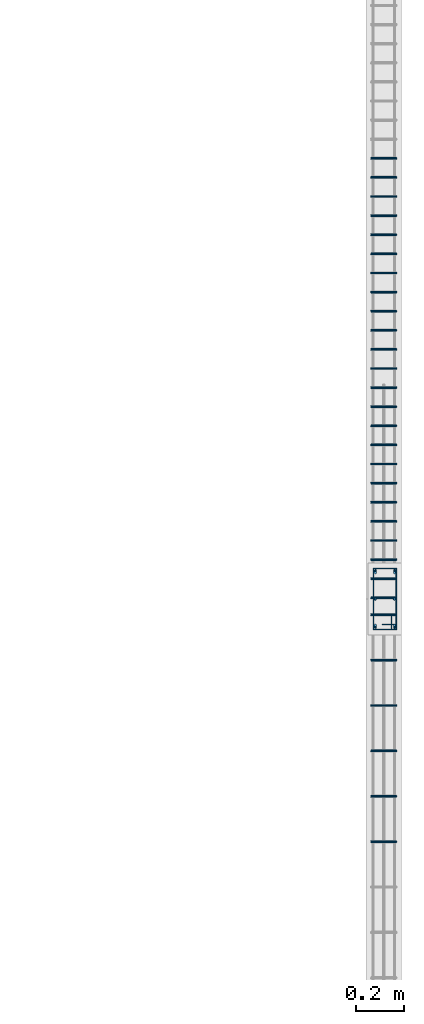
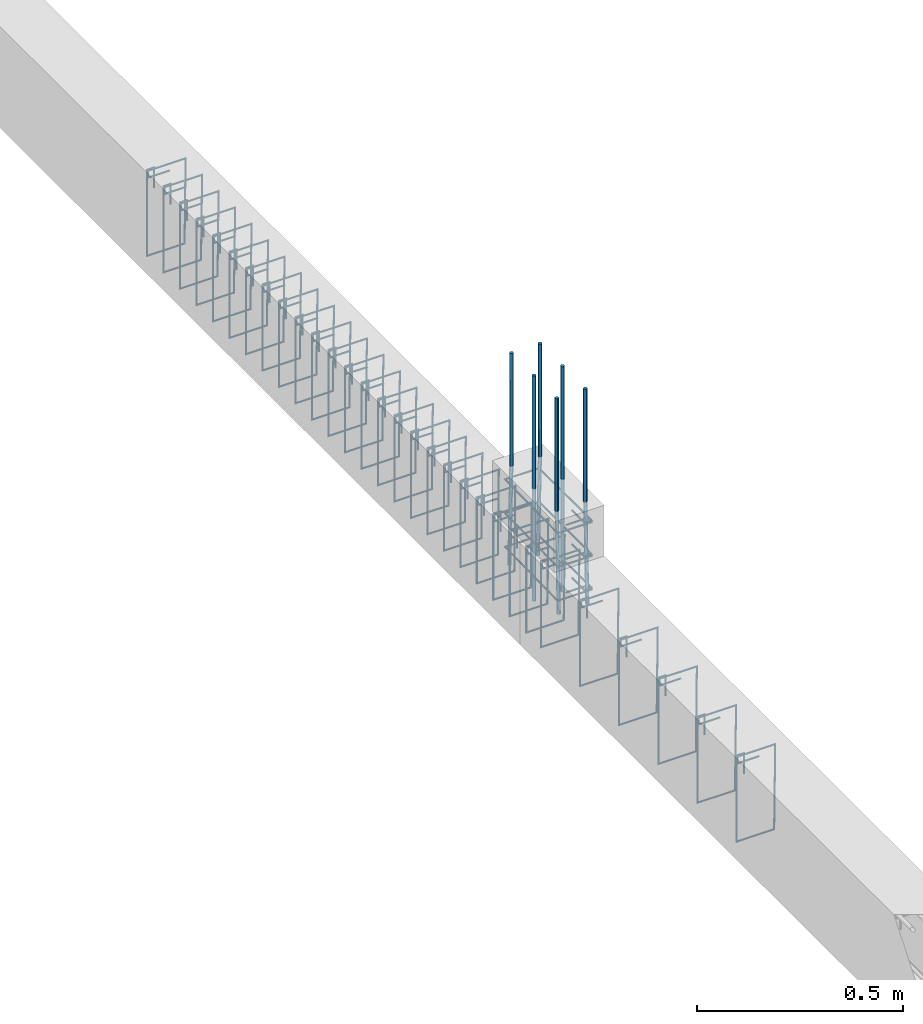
# One storey, part 108 of 150: 39 reinforcing bars.
"""IFC4 building model written with IfcOpenShell, lengths in centimetres."""

from ifc_helpers import new_model, entity, si_unit, derived_unit, frame, origin_with_axes, place, context, project, spatial, source, transform, mapped, element, save


model = new_model("IFC4")

# Units and contexts
model_context = context("Model", 3, precision=1e-05, world=origin_with_axes(), identifier="Body")
ifc_project = project(units=[si_unit("LENGTHUNIT", "METRE", prefix="CENTI"), si_unit("VOLUMEUNIT", "CUBIC_METRE"), si_unit("AREAUNIT", "SQUARE_METRE"), si_unit("POWERUNIT", "WATT"), si_unit("LUMINOUSFLUXUNIT", "LUMEN"), si_unit("ELECTRICCURRENTUNIT", "AMPERE"), si_unit("PRESSUREUNIT", "PASCAL", prefix="KILO"), si_unit("MASSUNIT", "GRAM", prefix="KILO"), si_unit("PLANEANGLEUNIT", "RADIAN"), derived_unit("VOLUMETRICFLOWRATEUNIT", [(si_unit("LENGTHUNIT", "METRE"), 3), (si_unit("TIMEUNIT", "SECOND"), -1)])], contexts=[model_context])

# Site, building, storey
site_placement = place(None, frame((-4000.0, 0.0, 0.0), z_axis=(0.0, 0.0, 1.0), x_axis=(1.0, 0.0, 0.0)))
site = spatial("IfcSite", under=ifc_project, at=site_placement, Name="PADRÃO")
building_placement = place(site_placement, frame((0.0, 0.0, -14.0)))
building = spatial("IfcBuilding", under=site, at=building_placement, Name="CRECHE PRÉ-ESCOLA TIPO 2")
placement = place(building_placement, origin_with_axes())
storey_placement = place(placement, frame((0.0, 0.0, 30.0), z_axis=(0.0, 0.0, 1.0), x_axis=(1.0, 0.0, 0.0)))
storey = spatial("IfcBuildingStorey", under=building, at=storey_placement, Name="VIGA BALDRAME", CompositionType="ELEMENT", Elevation=16.0)

# Reinforcing bars
shared_shape_1 = source(origin_with_axes(), model_context, "Body", "AdvancedSweptSolid", [
    entity("IfcSweptDiskSolid", entity("IfcCompositeCurve", [entity("IfcCompositeCurveSegment", "CONTINUOUS", True, entity("IfcPolyline", [entity("IfcCartesianPoint", [4.25, 21.75, 0.0]), entity("IfcCartesianPoint", [4.25, 27.75, 0.0])])), entity("IfcCompositeCurveSegment", "CONTINUOUS", True, entity("IfcPolyline", [entity("IfcCartesianPoint", [4.25, 27.75, 0.0]), entity("IfcCartesianPoint", [2.25, 27.75, 0.0])])), entity("IfcCompositeCurveSegment", "CONTINUOUS", True, entity("IfcPolyline", [entity("IfcCartesianPoint", [2.25, 27.75, 0.0]), entity("IfcCartesianPoint", [2.25, 2.25, 0.0])])), entity("IfcCompositeCurveSegment", "CONTINUOUS", True, entity("IfcPolyline", [entity("IfcCartesianPoint", [2.25, 2.25, 0.0]), entity("IfcCartesianPoint", [11.75, 2.25, 0.0])])), entity("IfcCompositeCurveSegment", "CONTINUOUS", True, entity("IfcPolyline", [entity("IfcCartesianPoint", [11.75, 2.25, 0.0]), entity("IfcCartesianPoint", [11.75, 27.75, -0.5])])), entity("IfcCompositeCurveSegment", "CONTINUOUS", True, entity("IfcPolyline", [entity("IfcCartesianPoint", [11.75, 27.75, -0.5]), entity("IfcCartesianPoint", [2.25, 27.75, -0.5])])), entity("IfcCompositeCurveSegment", "CONTINUOUS", True, entity("IfcPolyline", [entity("IfcCartesianPoint", [2.25, 27.75, -0.5]), entity("IfcCartesianPoint", [2.25, 25.75, -0.5])])), entity("IfcCompositeCurveSegment", "CONTINUOUS", True, entity("IfcPolyline", [entity("IfcCartesianPoint", [2.25, 25.75, -0.5]), entity("IfcCartesianPoint", [8.25, 25.75, -0.5])]))], False), 0.25),
])
for number, where, z_axis, x_axis, name in (
    (1, (3999.0, 2929.5, -15.0), (0.0, 0.0, 1.0), (-1.0, 0.0, 0.0), "P63 - Estribo"),
    (2, (3999.0, 2929.5, -5.0), (0.0, 0.0, 1.0), (-1.0, 0.0, 0.0), "P63 - Estribo"),
    (3, (3999.0, 2929.5, -25.0), (0.0, 0.0, 1.0), (-1.0, 0.0, 0.0), "P63 - Estribo"),
):
    element("IfcReinforcingBar", number, at=place(storey_placement, frame(where, z_axis=z_axis, x_axis=x_axis)), inside=storey, Name=name, BarLength=0.0, CrossSectionArea=1.9634954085e-05, NominalDiameter=0.5, PredefinedType="MAIN", context=model_context, shape_type="MappedRepresentation", body=[
        mapped(shared_shape_1, transform((0.0, 0.0, 0.0), scale=1.0)),
    ])
shared_shape_2 = source(origin_with_axes(), model_context, "Body", "AdvancedSweptSolid", [
    entity("IfcSweptDiskSolid", entity("IfcCompositeCurve", [entity("IfcCompositeCurveSegment", "CONTINUOUS", True, entity("IfcPolyline", [entity("IfcCartesianPoint", [2.0, -6.0, 0.0]), entity("IfcCartesianPoint", [2.0, 0.0, 0.0])])), entity("IfcCompositeCurveSegment", "CONTINUOUS", True, entity("IfcPolyline", [entity("IfcCartesianPoint", [2.0, 0.0, 0.0]), entity("IfcCartesianPoint", [0.0, 0.0, 0.0])])), entity("IfcCompositeCurveSegment", "CONTINUOUS", True, entity("IfcPolyline", [entity("IfcCartesianPoint", [0.0, 0.0, 0.0]), entity("IfcCartesianPoint", [0.0, -25.5, 0.0])])), entity("IfcCompositeCurveSegment", "CONTINUOUS", True, entity("IfcPolyline", [entity("IfcCartesianPoint", [0.0, -25.5, 0.0]), entity("IfcCartesianPoint", [10.5, -25.5, 0.0])])), entity("IfcCompositeCurveSegment", "CONTINUOUS", True, entity("IfcPolyline", [entity("IfcCartesianPoint", [10.5, -25.5, 0.0]), entity("IfcCartesianPoint", [10.5, 0.0, 0.5])])), entity("IfcCompositeCurveSegment", "CONTINUOUS", True, entity("IfcPolyline", [entity("IfcCartesianPoint", [10.5, 0.0, 0.5]), entity("IfcCartesianPoint", [0.0, 0.0, 0.5])])), entity("IfcCompositeCurveSegment", "CONTINUOUS", True, entity("IfcPolyline", [entity("IfcCartesianPoint", [0.0, 0.0, 0.5]), entity("IfcCartesianPoint", [0.0, -2.0, 0.5])])), entity("IfcCompositeCurveSegment", "CONTINUOUS", True, entity("IfcPolyline", [entity("IfcCartesianPoint", [0.0, -2.0, 0.5]), entity("IfcCartesianPoint", [6.0, -2.0, 0.5])]))], False), 0.25),
])
for number, where, z_axis, x_axis, name in (
    (4, (3986.25, 2908.135, -17.25), (0.0, -1.0, 0.0), (1.0, 0.0, 0.0), "V230 - Estribo"),
    (5, (3986.25, 2889.135, -17.25), (0.0, -1.0, 0.0), (1.0, 0.0, 0.0), "V230 - Estribo"),
    (6, (3986.25, 2870.135, -17.25), (0.0, -1.0, 0.0), (1.0, 0.0, 0.0), "V230 - Estribo"),
    (7, (3986.25, 2851.135, -17.25), (0.0, -1.0, 0.0), (1.0, 0.0, 0.0), "V230 - Estribo"),
    (8, (3986.25, 2832.135, -17.25), (0.0, -1.0, 0.0), (1.0, 0.0, 0.0), "V230 - Estribo"),
    (9, (3986.25, 2813.135, -17.25), (0.0, -1.0, 0.0), (1.0, 0.0, 0.0), "V230 - Estribo"),
):
    element("IfcReinforcingBar", number, at=place(storey_placement, frame(where, z_axis=z_axis, x_axis=x_axis)), inside=storey, Name=name, BarLength=0.0, CrossSectionArea=1.9634954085e-05, NominalDiameter=0.5, PredefinedType="MAIN", context=model_context, shape_type="MappedRepresentation", body=[
        mapped(shared_shape_2, transform((0.0, 0.0, 0.0), scale=1.0)),
    ])
shared_shape_3 = source(origin_with_axes(), model_context, "Body", "AdvancedSweptSolid", [
    entity("IfcSweptDiskSolid", entity("IfcCompositeCurve", [entity("IfcCompositeCurveSegment", "CONTINUOUS", True, entity("IfcPolyline", [entity("IfcCartesianPoint", [2.0, -6.0, 0.0]), entity("IfcCartesianPoint", [2.0, 0.0, 0.0])])), entity("IfcCompositeCurveSegment", "CONTINUOUS", True, entity("IfcPolyline", [entity("IfcCartesianPoint", [2.0, 0.0, 0.0]), entity("IfcCartesianPoint", [0.0, 0.0, 0.0])])), entity("IfcCompositeCurveSegment", "CONTINUOUS", True, entity("IfcPolyline", [entity("IfcCartesianPoint", [0.0, 0.0, 0.0]), entity("IfcCartesianPoint", [0.0, -25.5, 0.0])])), entity("IfcCompositeCurveSegment", "CONTINUOUS", True, entity("IfcPolyline", [entity("IfcCartesianPoint", [0.0, -25.5, 0.0]), entity("IfcCartesianPoint", [10.5, -25.5, 0.0])])), entity("IfcCompositeCurveSegment", "CONTINUOUS", True, entity("IfcPolyline", [entity("IfcCartesianPoint", [10.5, -25.5, 0.0]), entity("IfcCartesianPoint", [10.5, 0.0, 0.5])])), entity("IfcCompositeCurveSegment", "CONTINUOUS", True, entity("IfcPolyline", [entity("IfcCartesianPoint", [10.5, 0.0, 0.5]), entity("IfcCartesianPoint", [0.0, 0.0, 0.5])])), entity("IfcCompositeCurveSegment", "CONTINUOUS", True, entity("IfcPolyline", [entity("IfcCartesianPoint", [0.0, 0.0, 0.5]), entity("IfcCartesianPoint", [0.0, -2.0, 0.5])])), entity("IfcCompositeCurveSegment", "CONTINUOUS", True, entity("IfcPolyline", [entity("IfcCartesianPoint", [0.0, -2.0, 0.5]), entity("IfcCartesianPoint", [6.0, -2.0, 0.5])]))], False), 0.25),
])
for number, where, z_axis, x_axis, name in (
    (10, (3986.25, 3099.25, -17.25), (0.0, -1.0, 0.0), (1.0, 0.0, 0.0), "V230 - Estribo"),
    (11, (3986.25, 3091.25, -17.25), (0.0, -1.0, 0.0), (1.0, 0.0, 0.0), "V230 - Estribo"),
    (12, (3986.25, 3083.25, -17.25), (0.0, -1.0, 0.0), (1.0, 0.0, 0.0), "V230 - Estribo"),
    (13, (3986.25, 3075.25, -17.25), (0.0, -1.0, 0.0), (1.0, 0.0, 0.0), "V230 - Estribo"),
    (14, (3986.25, 3067.25, -17.25), (0.0, -1.0, 0.0), (1.0, 0.0, 0.0), "V230 - Estribo"),
    (15, (3986.25, 3059.25, -17.25), (0.0, -1.0, 0.0), (1.0, 0.0, 0.0), "V230 - Estribo"),
    (16, (3986.25, 3051.25, -17.25), (0.0, -1.0, 0.0), (1.0, 0.0, 0.0), "V230 - Estribo"),
    (17, (3986.25, 3043.25, -17.25), (0.0, -1.0, 0.0), (1.0, 0.0, 0.0), "V230 - Estribo"),
    (18, (3986.25, 3035.25, -17.25), (0.0, -1.0, 0.0), (1.0, 0.0, 0.0), "V230 - Estribo"),
    (19, (3986.25, 3027.25, -17.25), (0.0, -1.0, 0.0), (1.0, 0.0, 0.0), "V230 - Estribo"),
    (20, (3986.25, 3019.25, -17.25), (0.0, -1.0, 0.0), (1.0, 0.0, 0.0), "V230 - Estribo"),
    (21, (3986.25, 3011.25, -17.25), (0.0, -1.0, 0.0), (1.0, 0.0, 0.0), "V230 - Estribo"),
    (22, (3986.25, 3003.25, -17.25), (0.0, -1.0, 0.0), (1.0, 0.0, 0.0), "V230 - Estribo"),
    (23, (3986.25, 2995.25, -17.25), (0.0, -1.0, 0.0), (1.0, 0.0, 0.0), "V230 - Estribo"),
    (24, (3986.25, 2987.25, -17.25), (0.0, -1.0, 0.0), (1.0, 0.0, 0.0), "V230 - Estribo"),
    (25, (3986.25, 2979.25, -17.25), (0.0, -1.0, 0.0), (1.0, 0.0, 0.0), "V230 - Estribo"),
    (26, (3986.25, 2971.25, -17.25), (0.0, -1.0, 0.0), (1.0, 0.0, 0.0), "V230 - Estribo"),
    (27, (3986.25, 2963.25, -17.25), (0.0, -1.0, 0.0), (1.0, 0.0, 0.0), "V230 - Estribo"),
    (28, (3986.25, 2955.25, -17.25), (0.0, -1.0, 0.0), (1.0, 0.0, 0.0), "V230 - Estribo"),
    (29, (3986.25, 2947.25, -17.25), (0.0, -1.0, 0.0), (1.0, 0.0, 0.0), "V230 - Estribo"),
    (30, (3986.25, 2939.25, -17.25), (0.0, -1.0, 0.0), (1.0, 0.0, 0.0), "V230 - Estribo"),
    (31, (3986.25, 2931.25, -17.25), (0.0, -1.0, 0.0), (1.0, 0.0, 0.0), "V230 - Estribo"),
    (32, (3986.25, 2923.25, -17.25), (0.0, -1.0, 0.0), (1.0, 0.0, 0.0), "V230 - Estribo"),
    (33, (3986.25, 2915.25, -17.25), (0.0, -1.0, 0.0), (1.0, 0.0, 0.0), "V230 - Estribo"),
):
    element("IfcReinforcingBar", number, at=place(storey_placement, frame(where, z_axis=z_axis, x_axis=x_axis)), inside=storey, Name=name, BarLength=0.0, CrossSectionArea=1.9634954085e-05, NominalDiameter=0.5, PredefinedType="MAIN", context=model_context, shape_type="MappedRepresentation", body=[
        mapped(shared_shape_3, transform((0.0, 0.0, 0.0), scale=1.0)),
    ])
for number, where, z_axis, x_axis, name in (
    (34, (3996.0, 2914.5, 33.3573001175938), (0.0, 0.0, 1.0), (1.0, 0.0, 0.0), "P63 - Longitudinal"),
    (35, (3988.0, 2914.5, 33.3573001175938), (0.0, 0.0, 1.0), (1.0, 0.0, 0.0), "P63 - Longitudinal"),
):
    element("IfcReinforcingBar", number, at=place(storey_placement, frame(where, z_axis=z_axis, x_axis=x_axis)), inside=storey, Name=name, BarLength=0.0, CrossSectionArea=7.853981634e-05, NominalDiameter=1.0, PredefinedType="MAIN", context=model_context, shape_type="AdvancedSweptSolid", body=[
        entity("IfcSweptDiskSolid", entity("IfcCompositeCurve", [entity("IfcCompositeCurveSegment", "CONTINUOUS", True, entity("IfcPolyline", [entity("IfcCartesianPoint", [0.0, 0.0, -66.7146002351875]), entity("IfcCartesianPoint", [0.0, 0.0, 0.0])]))], False), 0.5),
    ])
for number, where, z_axis, x_axis, name in (
    (36, (3996.0, 2903.00013877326, 33.3573001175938), (0.0, 0.0, 1.0), (1.0, 0.0, 0.0), "P63 - Longitudinal"),
    (37, (3988.0, 2903.00013877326, 33.3573001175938), (0.0, 0.0, 1.0), (1.0, 0.0, 0.0), "P63 - Longitudinal"),
):
    element("IfcReinforcingBar", number, at=place(storey_placement, frame(where, z_axis=z_axis, x_axis=x_axis)), inside=storey, Name=name, BarLength=0.0, CrossSectionArea=7.853981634e-05, NominalDiameter=1.0, PredefinedType="MAIN", context=model_context, shape_type="AdvancedSweptSolid", body=[
        entity("IfcSweptDiskSolid", entity("IfcCompositeCurve", [entity("IfcCompositeCurveSegment", "CONTINUOUS", True, entity("IfcPolyline", [entity("IfcCartesianPoint", [0.0, -0.500138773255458, -63.3573001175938]), entity("IfcCartesianPoint", [0.0, 0.499861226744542, -33.3573001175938])])), entity("IfcCompositeCurveSegment", "CONTINUOUS", True, entity("IfcPolyline", [entity("IfcCartesianPoint", [0.0, 0.499861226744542, -33.3573001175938]), entity("IfcCartesianPoint", [0.0, 0.499861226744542, 0.0])]))], False), 0.5),
    ])
for number, where, z_axis, x_axis, name in (
    (38, (3996.0, 2925.99986122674, 33.3573001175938), (0.0, 0.0, 1.0), (1.0, 0.0, 0.0), "P63 - Longitudinal"),
    (39, (3988.0, 2925.99986122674, 33.3573001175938), (0.0, 0.0, 1.0), (1.0, 0.0, 0.0), "P63 - Longitudinal"),
):
    element("IfcReinforcingBar", number, at=place(storey_placement, frame(where, z_axis=z_axis, x_axis=x_axis)), inside=storey, Name=name, BarLength=0.0, CrossSectionArea=7.853981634e-05, NominalDiameter=1.0, PredefinedType="MAIN", context=model_context, shape_type="AdvancedSweptSolid", body=[
        entity("IfcSweptDiskSolid", entity("IfcCompositeCurve", [entity("IfcCompositeCurveSegment", "CONTINUOUS", True, entity("IfcPolyline", [entity("IfcCartesianPoint", [0.0, 0.500138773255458, -63.3573001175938]), entity("IfcCartesianPoint", [0.0, -0.499861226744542, -33.3573001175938])])), entity("IfcCompositeCurveSegment", "CONTINUOUS", True, entity("IfcPolyline", [entity("IfcCartesianPoint", [0.0, -0.499861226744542, -33.3573001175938]), entity("IfcCartesianPoint", [0.0, -0.499861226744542, 0.0])]))], False), 0.5),
    ])

save(model, "model.ifc")
